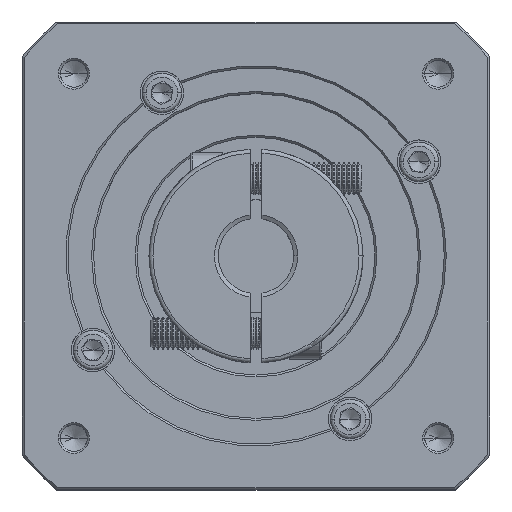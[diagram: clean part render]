
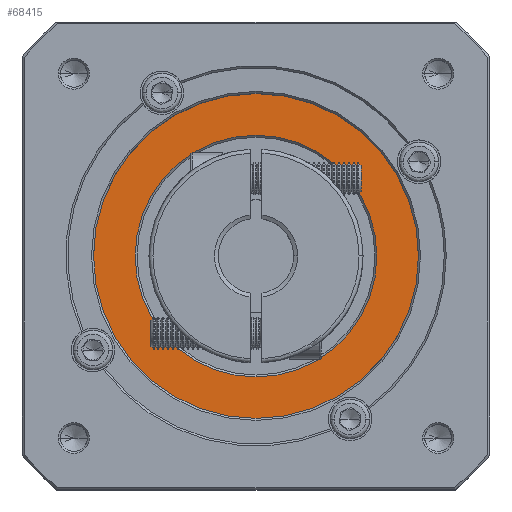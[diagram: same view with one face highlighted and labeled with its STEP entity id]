
A CAD part, top view. The second image highlights one B-rep face of the part: STEP entity #68415.
In plain terms, the highlighted planar face has unit normal (0, 0, 1).
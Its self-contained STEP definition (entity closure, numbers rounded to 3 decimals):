
#554 = DIRECTION ( 'NONE',  ( 1., 0., 0. ) ) ;
#2918 = AXIS2_PLACEMENT_3D ( 'NONE', #28380, #94477, #37912 ) ;
#4187 = CIRCLE ( 'NONE', #46329, 30.5 ) ;
#4493 = ORIENTED_EDGE ( 'NONE', *, *, #6501, .T. ) ;
#6501 = EDGE_CURVE ( 'NONE', #102356, #79586, #91510, .T. ) ;
#8459 = CARTESIAN_POINT ( 'NONE',  ( 73.348, 169.359, 38.453 ) ) ;
#8672 = PLANE ( 'NONE',  #70164 ) ;
#14199 = EDGE_LOOP ( 'NONE', ( #58748, #103537 ) ) ;
#21511 = AXIS2_PLACEMENT_3D ( 'NONE', #38479, #104555, #48019 ) ;
#26725 = VERTEX_POINT ( 'NONE', #8459 ) ;
#27177 = AXIS2_PLACEMENT_3D ( 'NONE', #113849, #57233, #554 ) ;
#28380 = CARTESIAN_POINT ( 'NONE',  ( 73.348, 138.859, 38.453 ) ) ;
#33054 = CARTESIAN_POINT ( 'NONE',  ( 73.348, 138.859, 38.453 ) ) ;
#36323 = EDGE_CURVE ( 'NONE', #79586, #102356, #112945, .T. ) ;
#37912 = DIRECTION ( 'NONE',  ( 1., 0., 0. ) ) ;
#38479 = CARTESIAN_POINT ( 'NONE',  ( 73.348, 138.859, 38.453 ) ) ;
#39725 = EDGE_CURVE ( 'NONE', #26725, #95321, #4187, .T. ) ;
#42595 = DIRECTION ( 'NONE',  ( 0., -1., 0. ) ) ;
#44799 = EDGE_LOOP ( 'NONE', ( #4493, #86480 ) ) ;
#46329 = AXIS2_PLACEMENT_3D ( 'NONE', #33054, #99162, #42595 ) ;
#46759 = CARTESIAN_POINT ( 'NONE',  ( 73.348, 138.859, 38.453 ) ) ;
#48019 = DIRECTION ( 'NONE',  ( 0., -1., 0. ) ) ;
#56210 = DIRECTION ( 'NONE',  ( 1., 0., 0. ) ) ;
#57233 = DIRECTION ( 'NONE',  ( 0., 0., 1. ) ) ;
#58748 = ORIENTED_EDGE ( 'NONE', *, *, #70857, .T. ) ;
#64570 = CARTESIAN_POINT ( 'NONE',  ( 114.348, 138.859, 38.453 ) ) ;
#68415 = ADVANCED_FACE ( 'NONE', ( #95305, #92365 ), #8672, .T. ) ;
#70164 = AXIS2_PLACEMENT_3D ( 'NONE', #46759, #112839, #56210 ) ;
#70857 = EDGE_CURVE ( 'NONE', #95321, #26725, #92097, .T. ) ;
#79586 = VERTEX_POINT ( 'NONE', #116416 ) ;
#86480 = ORIENTED_EDGE ( 'NONE', *, *, #36323, .T. ) ;
#91510 = CIRCLE ( 'NONE', #27177, 41. ) ;
#92097 = CIRCLE ( 'NONE', #21511, 30.5 ) ;
#92365 = FACE_BOUND ( 'NONE', #14199, .T. ) ;
#94477 = DIRECTION ( 'NONE',  ( 0., 0., 1. ) ) ;
#95305 = FACE_OUTER_BOUND ( 'NONE', #44799, .T. ) ;
#95321 = VERTEX_POINT ( 'NONE', #111287 ) ;
#99162 = DIRECTION ( 'NONE',  ( 0., 0., -1. ) ) ;
#102356 = VERTEX_POINT ( 'NONE', #64570 ) ;
#103537 = ORIENTED_EDGE ( 'NONE', *, *, #39725, .T. ) ;
#104555 = DIRECTION ( 'NONE',  ( 0., 0., -1. ) ) ;
#111287 = CARTESIAN_POINT ( 'NONE',  ( 73.348, 108.359, 38.453 ) ) ;
#112839 = DIRECTION ( 'NONE',  ( 0., 0., 1. ) ) ;
#112945 = CIRCLE ( 'NONE', #2918, 41. ) ;
#113849 = CARTESIAN_POINT ( 'NONE',  ( 73.348, 138.859, 38.453 ) ) ;
#116416 = CARTESIAN_POINT ( 'NONE',  ( 32.348, 138.859, 38.453 ) ) ;
